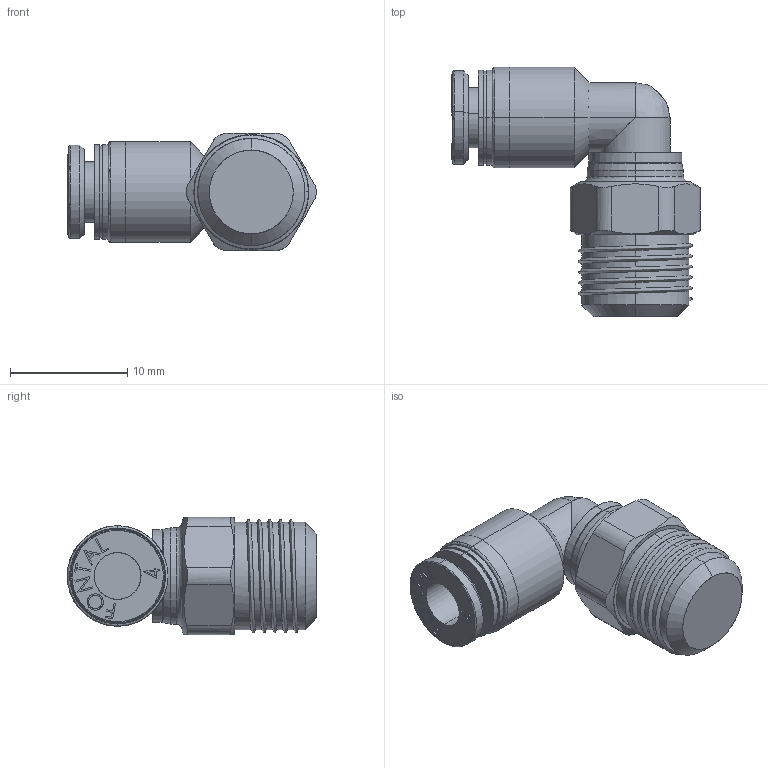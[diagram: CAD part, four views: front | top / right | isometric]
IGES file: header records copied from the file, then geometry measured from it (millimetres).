
Start section: SolidWorks IGES file using analytic representation for surfaces
Global section: file name: D:\Custom\3D繪製\ADDITIONAL\FPL\FPL4-01.IGS,1; native system: 5HSolidWorks 2014; preprocessor: SolidWorks 2014; author: Chieh_Lu; date: 160115.050551; units: millimetre
Bounding box: 21.21 x 21.3 x 10 mm (x, y, z)
Surface area: 1444.7 mm2 (no closed solid volume)
Topology: 0 solids, 0 shells, 166 faces, 2002 edges, 2001 vertices
Faces by surface type: bspline 107, revolution 59
